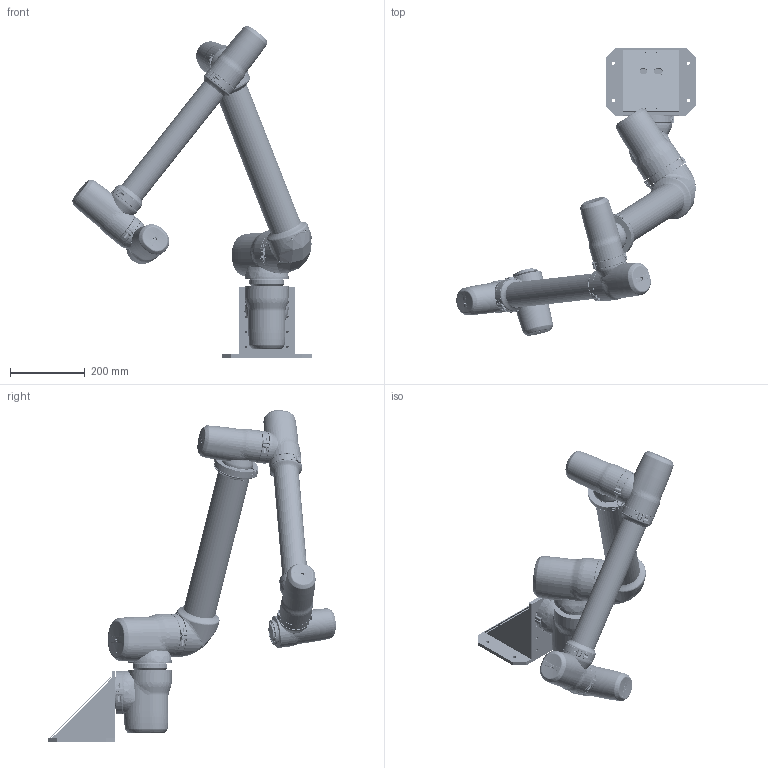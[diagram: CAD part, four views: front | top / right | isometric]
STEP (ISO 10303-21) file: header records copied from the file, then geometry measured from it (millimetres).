
FILE_DESCRIPTION (( 'STEP AP214' ), '1' );
FILE_NAME ('6 DoF 1 Leichte Leo.STEP', '2022-05-24T15:47:33', ( '' ), ( '' ), 'SwSTEP 2.0', 'SolidWorks 2021', '' );
FILE_SCHEMA (( 'AUTOMOTIVE_DESIGN' ));
Length unit declared in the file: millimetre
Products named in the file (40): rohr_86_80_376-500.STEP; 626.0033-G-1.STEP; 626.0129-A.STEP; 626.0040-A-gef_llt.STEP; 626.0040-A.STEP; D86.STEP; 626.0072-A-gef_llt.STEP; 626.0132-A.STEP; 6 DoF 1 Leichte Leo; C86S.step; 626.0131-A.STEP; 626.0005-B.STEP; L116L-500.STEP; 626.0079-E.STEP; 626.0001-F.STEP; 626.0004-A-gef_llt.STEP; 626.0004-A.STEP; 876.0019-F.STEP; 626.0078-E.STEP; 626.0023-E.STEP; 876.0023-F.STEP; 626.0073-A-gef_llt.STEP; rohr_68_63_laengerohr - 400.STEP; 626.0008-A-gef_llt.STEP; C116S.step; 876.0022-F.STEP; 626.0036-A-gef_llt.STEP; L86I-400.STEP; 626.0037-C.STEP; 876.0018-F.STEP; 626.0008-A.STEP; 626.0024-C.STEP; 876.0031.STEP; 636.0001-A-gef_llt.STEP; 626.0040-B.STEP; item_0061956_Winkel_8_160x160-40_Al_M8_1.stp.STEP; 626.0130-A.STEP; 626.0036-B.STEP; D116.STEP; 626.0074-A-gef_llt.STEP
Assembly tree (52 placements, depth 4):
  6 DoF 1 Leichte Leo
    876.0031.STEP
      626.0130-A.STEP
      item_0061956_Winkel_8_160x160-40_Al_M8_1.stp.STEP  x2
      626.0129-A.STEP
      626.0132-A.STEP  x2
      626.0131-A.STEP
      626.0040-A.STEP
    C86S.step  x4
    C116S.step  x3
    D116.STEP  x2
      876.0022-F.STEP
        626.0033-G-1.STEP
        626.0036-B.STEP
        626.0078-E.STEP
      876.0023-F.STEP
        626.0037-C.STEP
        626.0040-B.STEP
      626.0079-E.STEP
    D86.STEP  x4
      876.0018-F.STEP
        626.0001-F.STEP
        626.0004-A.STEP
        626.0023-E.STEP
      876.0019-F.STEP
        626.0005-B.STEP
        626.0008-A.STEP
      626.0024-C.STEP
    L86I-400.STEP
      626.0004-A-gef_llt.STEP
      626.0008-A-gef_llt.STEP
      rohr_68_63_laengerohr - 400.STEP
      636.0001-A-gef_llt.STEP  x2
    L116L-500.STEP
      626.0036-A-gef_llt.STEP
      626.0040-A-gef_llt.STEP
      rohr_86_80_376-500.STEP
      626.0072-A-gef_llt.STEP  x2
      626.0073-A-gef_llt.STEP
      626.0074-A-gef_llt.STEP
Bounding box: 639.87 x 768.78 x 886.99 mm (x, y, z)
Volume: 11842488.8 mm3; surface area: 2019639.9 mm2
Topology: 84 solids, 88 shells, 6150 faces, 14782 edges, 8958 vertices
Faces by surface type: cylinder 2842, plane 1163, cone 1150, bspline 611, torus 372, sphere 12
Entity records: 99341 total; most frequent: CARTESIAN_POINT 33997, DIRECTION 13899, ORIENTED_EDGE 12576, EDGE_CURVE 6288, AXIS2_PLACEMENT_3D 5821, VERTEX_POINT 3973, EDGE_LOOP 3533, CIRCLE 3302
